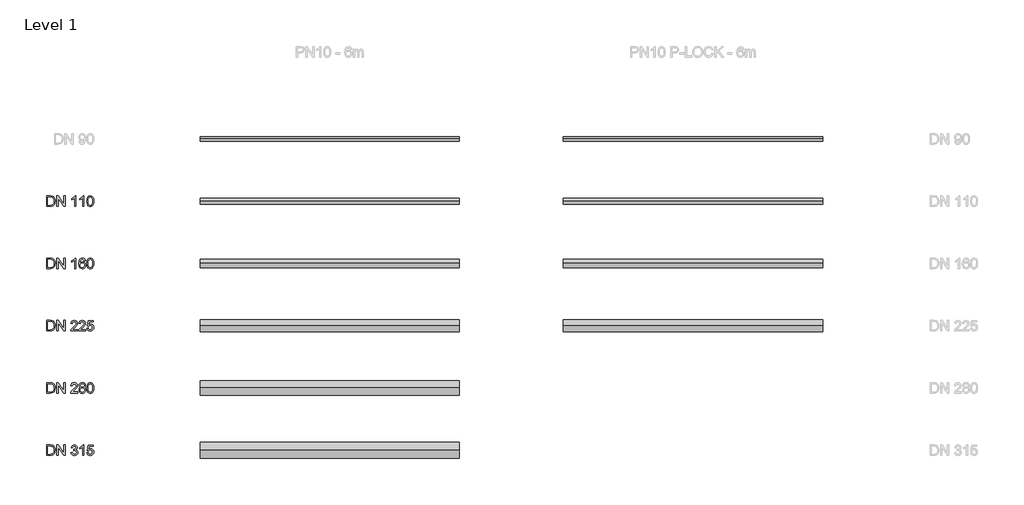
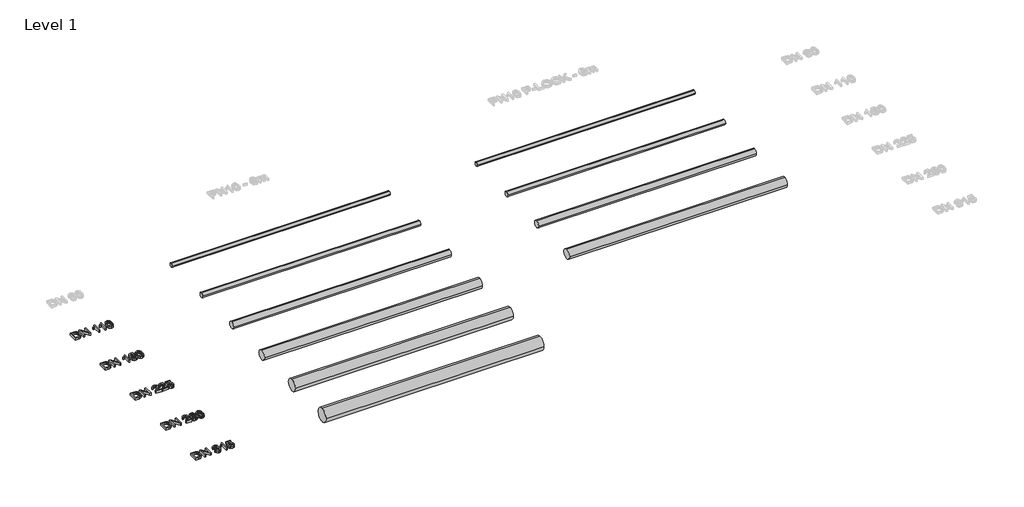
# One storey, part 1 of 3: 10 pipe segments, 5 proxies.
"""IFC4 building model written with IfcOpenShell, lengths in millimetres."""

from ifc_helpers import new_model, si_unit, point, frame, frame_2d, origin, origin_with_axes, place, context, project, spatial, polyline, circle_curve, trimmed, segment, composite_curve, outline, extrude, element, save

model = new_model("IFC4")

# Units and contexts
model_context = context("Model", 3, world=origin())
ifc_project = project(units=[si_unit("LENGTHUNIT", "METRE", prefix="MILLI")], contexts=[model_context])

# Site, building, storey
site = spatial("IfcSite", under=ifc_project)
building = spatial("IfcBuilding", under=site)
storey = spatial("IfcBuildingStorey", under=building, Name="Level 1", Elevation=0.0)

# Proxies
placement = place(None, origin())
element("IfcBuildingElementProxy", 1, Name="200mm Arial", ObjectType="200mm Arial", at=placement, inside=storey, context=model_context, shape_type="SweptSolid", body=[
    extrude(outline(polyline([(-19491.3116028, -1913.949573), (-19491.3116028, -1713.0369527), (-19422.0026349, -1713.0369527), (-19386.1464031, -1715.9309577), (-19370.1312736, -1721.5105013), (-19356.6177416, -1730.302881), (-19342.724065, -1745.606772), (-19332.8280393, -1764.6385338), (-19326.9051392, -1787.0302846), (-19324.9308391, -1812.4141423), (-19330.2773908, -1852.9547382), (-19344.0116519, -1882.2136195), (-19362.3567008, -1900.436041), (-19386.3671323, -1910.5160077), (-19418.6671715, -1913.949573), (-19491.3116028, -1913.949573)]), holes=[polyline([(-19466.1975253, -1888.8354954), (-19421.7573803, -1888.8354954), (-19389.4328156, -1885.2057264), (-19370.7934612, -1874.9540815), (-19362.0685265, -1864.0831685), (-19355.5140957, -1850.0116822), (-19351.4122114, -1832.6783089), (-19350.0449167, -1812.0217348), (-19352.7243239, -1784.6513144), (-19360.7625455, -1764.4423301), (-19372.6390025, -1750.5609162), (-19386.8331162, -1742.1732067), (-19422.4440933, -1738.1510302), (-19466.1975253, -1738.1510302), (-19466.1975253, -1888.8354954)])]), origin_with_axes(), (0.0, 0.0, 1.0), 50.0),
    extrude(outline(polyline([(-19290.3989825, -1913.949573), (-19290.3989825, -1713.0369527), (-19263.5190714, -1713.0369527), (-19158.5500754, -1872.2072292), (-19158.5500754, -1713.0369527), (-19133.4359979, -1713.0369527), (-19133.4359979, -1913.949573), (-19160.315909, -1913.949573), (-19265.284905, -1754.7302454), (-19265.284905, -1913.949573), (-19290.3989825, -1913.949573)])), origin_with_axes(), (0.0, 0.0, 1.0), 50.0),
    extrude(outline(polyline([(-18926.2448582, -1913.949573), (-18951.3589358, -1913.949573), (-18951.3589358, -1757.3789958), (-18975.1486381, -1774.3260931), (-19001.5870908, -1787.0057592), (-19001.5870908, -1763.2651077), (-18964.7743658, -1739.769711), (-18951.3037535, -1726.1948653), (-18942.431666, -1713.0369527), (-18926.2448582, -1713.0369527), (-18926.2448582, -1913.949573)])), origin_with_axes(), (0.0, 0.0, 1.0), 50.0),
    extrude(outline(polyline([(-18737.8892767, -1766.4043674), (-18763.0033542, -1769.5436271), (-18772.5192352, -1748.5988789), (-18783.9113143, -1740.7629924), (-18797.6823636, -1738.1510302), (-18820.3438945, -1744.2333458), (-18829.7800677, -1753.8411973), (-18837.4871955, -1767.066555), (-18842.6927257, -1785.7733545), (-18844.6241062, -1811.8255311), (-18834.5502709, -1800.0717013), (-18822.4776101, -1791.7882251), (-18809.0805741, -1786.8770005), (-18795.0336133, -1785.2399256), (-18771.8325221, -1789.7158232), (-18752.3593018, -1803.143516), (-18739.1523382, -1823.6590686), (-18734.750017, -1849.3985455), (-18736.8224189, -1867.3818437), (-18743.0396246, -1884.0530295), (-18752.8865994, -1898.1919608), (-18765.8483083, -1908.5784958), (-18781.3361403, -1914.9612484), (-18798.7614842, -1917.0888326), (-18827.2539447, -1911.4479754), (-18849.9461324, -1894.5254036), (-18858.6051549, -1881.4165418), (-18864.7901709, -1864.6533856), (-18869.7381838, -1820.1641897), (-18864.2444793, -1770.144501), (-18857.3773487, -1751.0667539), (-18847.7633659, -1735.9437382), (-18837.3431084, -1725.9220195), (-18825.2612505, -1718.763649), (-18796.1127338, -1713.0369527), (-18774.0766023, -1716.5808825), (-18756.4305292, -1727.2126722), (-18744.0696942, -1744.0984558), (-18737.8892767, -1766.4043674)]), holes=[polyline([(-18844.6241062, -1849.0061381), (-18838.8115707, -1870.7602267), (-18823.3605269, -1886.554627), (-18800.7235215, -1891.9747551), (-18784.1504376, -1889.1665892), (-18771.1212836, -1880.7420915), (-18762.6783918, -1867.4983397), (-18759.8640945, -1850.2324114), (-18762.6416036, -1833.6593275), (-18770.9741308, -1821.022581), (-18784.224014, -1813.0211476), (-18801.7535911, -1810.3540031), (-18818.3021495, -1813.0211476), (-18832.1406439, -1821.022581), (-18841.5032406, -1833.3527592), (-18844.6241062, -1849.0061381)])]), origin_with_axes(), (0.0, 0.0, 1.0), 50.0),
    extrude(outline(polyline([(-18712.7751992, -1815.1119436), (-18710.9296578, -1782.9529258), (-18705.3930338, -1757.3054194), (-18696.2205094, -1737.7770168), (-18683.4672669, -1723.9753106), (-18667.0413358, -1715.7715422), (-18646.8507456, -1713.0369527), (-18631.3751764, -1714.6556334), (-18617.5182879, -1719.5116758), (-18605.930005, -1727.4150073), (-18597.2602527, -1738.1755557), (-18585.4880288, -1767.9004209), (-18580.9262921, -1815.1119436), (-18582.7534393, -1847.0870203), (-18588.2348811, -1872.6732131), (-18597.3522232, -1892.2200098), (-18610.0870716, -1906.0768983), (-18626.5497909, -1914.335849), (-18646.8507456, -1917.0888326), (-18672.9458418, -1912.3063667), (-18692.7624186, -1897.9589689), (-18701.5180101, -1882.8298218), (-18707.772004, -1863.9789353), (-18712.7751992, -1815.1119436)]), holes=[polyline([(-18687.6611216, -1815.0628927), (-18684.7180657, -1854.5672876), (-18675.8888978, -1877.4311536), (-18662.7432478, -1888.3388547), (-18646.8507456, -1891.9747551), (-18630.9582434, -1888.326592), (-18617.8125935, -1877.3821026), (-18608.9834256, -1854.5059739), (-18606.0403696, -1815.0628927), (-18608.8853237, -1776.4475459), (-18617.420186, -1753.4058703), (-18630.5413105, -1741.9647402), (-18647.1450512, -1738.1510302), (-18662.8658751, -1741.5110191), (-18675.4964903, -1751.5909857), (-18684.6199638, -1776.0674012), (-18687.6611216, -1815.0628927)])]), origin_with_axes(), (0.0, 0.0, 1.0), 50.0),
])
element("IfcBuildingElementProxy", 2, Name="200mm Arial", ObjectType="200mm Arial", at=placement, inside=storey, context=model_context, shape_type="SweptSolid", body=[
    extrude(outline(polyline([(-19491.3116028, -3113.949573), (-19491.3116028, -2913.0369527), (-19422.0026349, -2913.0369527), (-19386.1464031, -2915.9309577), (-19370.1312736, -2921.5105013), (-19356.6177416, -2930.302881), (-19342.724065, -2945.606772), (-19332.8280393, -2964.6385338), (-19326.9051392, -2987.0302846), (-19324.9308391, -3012.4141423), (-19330.2773908, -3052.9547382), (-19344.0116519, -3082.2136195), (-19362.3567008, -3100.436041), (-19386.3671323, -3110.5160077), (-19418.6671715, -3113.949573), (-19491.3116028, -3113.949573)]), holes=[polyline([(-19466.1975253, -3088.8354954), (-19421.7573803, -3088.8354954), (-19389.4328156, -3085.2057264), (-19370.7934612, -3074.9540815), (-19362.0685265, -3064.0831685), (-19355.5140957, -3050.0116822), (-19351.4122114, -3032.6783089), (-19350.0449167, -3012.0217348), (-19352.7243239, -2984.6513144), (-19360.7625455, -2964.4423301), (-19372.6390025, -2950.5609162), (-19386.8331162, -2942.1732067), (-19422.4440933, -2938.1510302), (-19466.1975253, -2938.1510302), (-19466.1975253, -3088.8354954)])]), origin_with_axes(), (0.0, 0.0, 1.0), 50.0),
    extrude(outline(polyline([(-19290.3989825, -3113.949573), (-19290.3989825, -2913.0369527), (-19263.5190714, -2913.0369527), (-19158.5500754, -3072.2072292), (-19158.5500754, -2913.0369527), (-19133.4359979, -2913.0369527), (-19133.4359979, -3113.949573), (-19160.315909, -3113.949573), (-19265.284905, -2954.7302454), (-19265.284905, -3113.949573), (-19290.3989825, -3113.949573)])), origin_with_axes(), (0.0, 0.0, 1.0), 50.0),
    extrude(outline(polyline([(-18891.7130016, -3088.8354954), (-18891.7130016, -3113.949573), (-19023.5619087, -3113.949573), (-19020.8641074, -3096.6345937), (-19005.6092673, -3069.9754118), (-18974.1676195, -3040.8636832), (-18930.806595, -2999.0232377), (-18922.6764029, -2984.6022634), (-18919.9663388, -2970.5736967), (-18922.5231187, -2957.9982638), (-18930.1934583, -2947.5442838), (-18941.9840762, -2940.4993436), (-18956.9016912, -2938.1510302), (-18972.5673328, -2940.4441613), (-18984.7380955, -2947.3235546), (-18992.5923761, -2958.2496499), (-18995.3085714, -2972.6828868), (-19020.422649, -2969.5436271), (-19014.334202, -2945.2511527), (-19001.1701579, -2927.5069778), (-18981.6172299, -2916.6544589), (-18956.3621309, -2913.0369527), (-18930.9230909, -2917.0591291), (-18911.4069511, -2929.1256586), (-18898.9909337, -2947.1518763), (-18894.8522613, -2969.0531178), (-18899.3158962, -2992.8673456), (-18914.1538033, -3017.4909138), (-18950.1326624, -3051.9001431), (-18979.0236618, -3076.0577275), (-18990.3544272, -3088.8354954), (-18891.7130016, -3088.8354954)])), origin_with_axes(), (0.0, 0.0, 1.0), 50.0),
    extrude(outline(polyline([(-18737.8892767, -3088.8354954), (-18737.8892767, -3113.949573), (-18869.7381838, -3113.949573), (-18867.0403825, -3096.6345937), (-18851.7855424, -3069.9754118), (-18820.3438945, -3040.8636832), (-18776.98287, -2999.0232377), (-18768.852678, -2984.6022634), (-18766.1426139, -2970.5736967), (-18768.6993938, -2957.9982638), (-18776.3697334, -2947.5442838), (-18788.1603513, -2940.4993436), (-18803.0779662, -2938.1510302), (-18818.7436079, -2940.4441613), (-18830.9143705, -2947.3235546), (-18838.7686511, -2958.2496499), (-18841.4848465, -2972.6828868), (-18866.5989241, -2969.5436271), (-18860.510477, -2945.2511527), (-18847.346433, -2927.5069778), (-18827.7935049, -2916.6544589), (-18802.538406, -2913.0369527), (-18777.099366, -2917.0591291), (-18757.5832262, -2929.1256586), (-18745.1672088, -2947.1518763), (-18741.0285364, -2969.0531178), (-18745.4921713, -2992.8673456), (-18760.3300784, -3017.4909138), (-18796.3089375, -3051.9001431), (-18825.1999369, -3076.0577275), (-18836.5307023, -3088.8354954), (-18737.8892767, -3088.8354954)])), origin_with_axes(), (0.0, 0.0, 1.0), 50.0),
    extrude(outline(polyline([(-18712.7751992, -3060.5821582), (-18687.6611216, -3057.4428985), (-18683.0503339, -3072.5199289), (-18675.005981, -3083.3172655), (-18663.5648509, -3089.8103827), (-18648.763732, -3091.9747551), (-18630.7620397, -3088.9642541), (-18617.2730332, -3079.9327511), (-18608.8485355, -3065.9225785), (-18606.0403696, -3047.9760685), (-18608.6707259, -3031.0780222), (-18616.5617947, -3018.1531014), (-18629.7748897, -3009.9493329), (-18648.3713245, -3007.2147434), (-18670.4197188, -3011.5802764), (-18684.5218619, -3022.9110419), (-18709.6359395, -3019.7717822), (-18687.6611216, -2916.1762123), (-18590.3440712, -2916.1762123), (-18590.3440712, -2941.2902899), (-18667.3540355, -2941.2902899), (-18678.0961897, -2996.619742), (-18660.1558111, -2985.7304349), (-18641.3570412, -2982.1006659), (-18617.8923012, -2986.601089), (-18598.4129496, -3000.1023582), (-18585.2979565, -3020.6792244), (-18580.9262921, -3046.4064386), (-18584.8626294, -3071.5205162), (-18596.6716415, -3093.0048247), (-18607.1072274, -3103.5415782), (-18619.2841214, -3111.0678307), (-18633.2023236, -3115.5835821), (-18648.8618339, -3117.0888326), (-18673.5283216, -3113.2199403), (-18693.1793515, -3101.6132634), (-18706.6499639, -3083.6177025), (-18712.7751992, -3060.5821582)])), origin_with_axes(), (0.0, 0.0, 1.0), 50.0),
])
element("IfcBuildingElementProxy", 3, Name="200mm Arial", ObjectType="200mm Arial", at=placement, inside=storey, context=model_context, shape_type="SweptSolid", body=[
    extrude(outline(polyline([(-19491.3116028, -4313.949573), (-19491.3116028, -4113.0369527), (-19422.0026349, -4113.0369527), (-19386.1464031, -4115.9309577), (-19370.1312736, -4121.5105013), (-19356.6177416, -4130.302881), (-19342.724065, -4145.606772), (-19332.8280393, -4164.6385338), (-19326.9051392, -4187.0302846), (-19324.9308391, -4212.4141423), (-19330.2773908, -4252.9547382), (-19344.0116519, -4282.2136195), (-19362.3567008, -4300.436041), (-19386.3671323, -4310.5160077), (-19418.6671715, -4313.949573), (-19491.3116028, -4313.949573)]), holes=[polyline([(-19466.1975253, -4288.8354954), (-19421.7573803, -4288.8354954), (-19389.4328156, -4285.2057264), (-19370.7934612, -4274.9540815), (-19362.0685265, -4264.0831685), (-19355.5140957, -4250.0116822), (-19351.4122114, -4232.6783089), (-19350.0449167, -4212.0217348), (-19352.7243239, -4184.6513144), (-19360.7625455, -4164.4423301), (-19372.6390025, -4150.5609162), (-19386.8331162, -4142.1732067), (-19422.4440933, -4138.1510302), (-19466.1975253, -4138.1510302), (-19466.1975253, -4288.8354954)])]), origin_with_axes(), (0.0, 0.0, 1.0), 50.0),
    extrude(outline(polyline([(-19290.3989825, -4313.949573), (-19290.3989825, -4113.0369527), (-19263.5190714, -4113.0369527), (-19158.5500754, -4272.2072292), (-19158.5500754, -4113.0369527), (-19133.4359979, -4113.0369527), (-19133.4359979, -4313.949573), (-19160.315909, -4313.949573), (-19265.284905, -4154.7302454), (-19265.284905, -4313.949573), (-19290.3989825, -4313.949573)])), origin_with_axes(), (0.0, 0.0, 1.0), 50.0),
    extrude(outline(polyline([(-18891.7130016, -4288.8354954), (-18891.7130016, -4313.949573), (-19023.5619087, -4313.949573), (-19020.8641074, -4296.6345937), (-19005.6092673, -4269.9754118), (-18974.1676195, -4240.8636832), (-18930.806595, -4199.0232377), (-18922.6764029, -4184.6022634), (-18919.9663388, -4170.5736967), (-18922.5231187, -4157.9982638), (-18930.1934583, -4147.5442838), (-18941.9840762, -4140.4993436), (-18956.9016912, -4138.1510302), (-18972.5673328, -4140.4441613), (-18984.7380955, -4147.3235546), (-18992.5923761, -4158.2496499), (-18995.3085714, -4172.6828868), (-19020.422649, -4169.5436271), (-19014.334202, -4145.2511527), (-19001.1701579, -4127.5069778), (-18981.6172299, -4116.6544589), (-18956.3621309, -4113.0369527), (-18930.9230909, -4117.0591291), (-18911.4069511, -4129.1256586), (-18898.9909337, -4147.1518763), (-18894.8522613, -4169.0531178), (-18899.3158962, -4192.8673456), (-18914.1538033, -4217.4909138), (-18950.1326624, -4251.9001431), (-18979.0236618, -4276.0577275), (-18990.3544272, -4288.8354954), (-18891.7130016, -4288.8354954)])), origin_with_axes(), (0.0, 0.0, 1.0), 50.0),
    extrude(outline(polyline([(-18830.0069283, -4203.2906688), (-18843.4530152, -4196.6687929), (-18852.8891884, -4187.6924722), (-18858.4626006, -4176.5456478), (-18860.3204047, -4163.4122605), (-18856.2737027, -4143.7796247), (-18844.1335969, -4127.5560287), (-18825.2612505, -4116.6667217), (-18801.0178271, -4113.0369527), (-18776.6272508, -4116.7525608), (-18757.5096498, -4127.8993853), (-18745.1488147, -4144.3804986), (-18741.0285364, -4164.0989736), (-18742.861815, -4176.8092965), (-18748.3616508, -4187.7660486), (-18757.5893575, -4196.687187), (-18770.6062488, -4203.2906688), (-18755.1490736, -4211.255314), (-18743.8980159, -4222.9846183), (-18737.0370167, -4237.9144959), (-18734.750017, -4255.4808612), (-18739.2872283, -4279.4912927), (-18752.8988621, -4299.332395), (-18773.9171868, -4312.6497232), (-18800.6744705, -4317.0888326), (-18827.4317543, -4312.6313291), (-18848.450079, -4299.2588186), (-18862.0617128, -4279.227644), (-18866.5989241, -4254.7941481), (-18864.2199538, -4236.5472012), (-18857.0830431, -4221.5376158), (-18845.5560739, -4210.2804267), (-18830.0069283, -4203.2906688)]), holes=[polyline([(-18841.4848465, -4253.9112313), (-18837.2909918, -4272.8203659), (-18831.4845876, -4280.9321639), (-18822.4530846, -4286.97156), (-18800.4782668, -4291.9747551), (-18783.3840168, -4289.3443988), (-18770.5571979, -4281.45333), (-18762.5373704, -4269.5032966), (-18759.8640945, -4254.6960463), (-18762.6232095, -4239.6374099), (-18770.9005544, -4227.4237277), (-18784.0216789, -4219.3303238), (-18801.3121327, -4216.6325225), (-18818.1672594, -4219.2935356), (-18830.8653196, -4227.2765749), (-18838.8299648, -4239.2572652), (-18841.4848465, -4253.9112313)]), polyline([(-18835.2063271, -4164.1480245), (-18832.9806411, -4175.110908), (-18826.3035829, -4183.8664995), (-18815.3713562, -4189.6054586), (-18800.3801649, -4191.518445), (-18785.7384615, -4189.6177213), (-18774.9717818, -4183.9155504), (-18768.3499059, -4175.4542645), (-18766.1426139, -4165.276196), (-18768.4234823, -4154.7118513), (-18775.2660874, -4145.974654), (-18786.1799199, -4140.1069361), (-18800.6744705, -4138.1510302), (-18815.2609916, -4140.0640166), (-18826.1564301, -4145.8029757), (-18832.9438529, -4154.2152106), (-18835.2063271, -4164.1480245)])]), origin_with_axes(), (0.0, 0.0, 1.0), 50.0),
    extrude(outline(polyline([(-18712.7751992, -4215.1119436), (-18710.9296578, -4182.9529258), (-18705.3930338, -4157.3054194), (-18696.2205094, -4137.7770168), (-18683.4672669, -4123.9753106), (-18667.0413358, -4115.7715422), (-18646.8507456, -4113.0369527), (-18631.3751764, -4114.6556334), (-18617.5182879, -4119.5116758), (-18605.930005, -4127.4150073), (-18597.2602527, -4138.1755557), (-18585.4880288, -4167.9004209), (-18580.9262921, -4215.1119436), (-18582.7534393, -4247.0870203), (-18588.2348811, -4272.6732131), (-18597.3522232, -4292.2200098), (-18610.0870716, -4306.0768983), (-18626.5497909, -4314.335849), (-18646.8507456, -4317.0888326), (-18672.9458418, -4312.3063667), (-18692.7624186, -4297.9589689), (-18701.5180101, -4282.8298218), (-18707.772004, -4263.9789353), (-18712.7751992, -4215.1119436)]), holes=[polyline([(-18687.6611216, -4215.0628927), (-18684.7180657, -4254.5672876), (-18675.8888978, -4277.4311536), (-18662.7432478, -4288.3388547), (-18646.8507456, -4291.9747551), (-18630.9582434, -4288.326592), (-18617.8125935, -4277.3821026), (-18608.9834256, -4254.5059739), (-18606.0403696, -4215.0628927), (-18608.8853237, -4176.4475459), (-18617.420186, -4153.4058703), (-18630.5413105, -4141.9647402), (-18647.1450512, -4138.1510302), (-18662.8658751, -4141.5110191), (-18675.4964903, -4151.5909857), (-18684.6199638, -4176.0674012), (-18687.6611216, -4215.0628927)])]), origin_with_axes(), (0.0, 0.0, 1.0), 50.0),
])
element("IfcBuildingElementProxy", 4, Name="200mm Arial", ObjectType="200mm Arial", at=placement, inside=storey, context=model_context, shape_type="SweptSolid", body=[
    extrude(outline(polyline([(-19491.3116028, -5513.949573), (-19491.3116028, -5313.0369527), (-19422.0026349, -5313.0369527), (-19386.1464031, -5315.9309577), (-19370.1312736, -5321.5105013), (-19356.6177416, -5330.302881), (-19342.724065, -5345.606772), (-19332.8280393, -5364.6385338), (-19326.9051392, -5387.0302846), (-19324.9308391, -5412.4141423), (-19330.2773908, -5452.9547382), (-19344.0116519, -5482.2136195), (-19362.3567008, -5500.436041), (-19386.3671323, -5510.5160077), (-19418.6671715, -5513.949573), (-19491.3116028, -5513.949573)]), holes=[polyline([(-19466.1975253, -5488.8354954), (-19421.7573803, -5488.8354954), (-19389.4328156, -5485.2057264), (-19370.7934612, -5474.9540815), (-19362.0685265, -5464.0831685), (-19355.5140957, -5450.0116822), (-19351.4122114, -5432.6783089), (-19350.0449167, -5412.0217348), (-19352.7243239, -5384.6513144), (-19360.7625455, -5364.4423301), (-19372.6390025, -5350.5609162), (-19386.8331162, -5342.1732067), (-19422.4440933, -5338.1510302), (-19466.1975253, -5338.1510302), (-19466.1975253, -5488.8354954)])]), origin_with_axes(), (0.0, 0.0, 1.0), 50.0),
    extrude(outline(polyline([(-19290.3989825, -5513.949573), (-19290.3989825, -5313.0369527), (-19263.5190714, -5313.0369527), (-19158.5500754, -5472.2072292), (-19158.5500754, -5313.0369527), (-19133.4359979, -5313.0369527), (-19133.4359979, -5513.949573), (-19160.315909, -5513.949573), (-19265.284905, -5354.7302454), (-19265.284905, -5513.949573), (-19290.3989825, -5513.949573)])), origin_with_axes(), (0.0, 0.0, 1.0), 50.0),
    extrude(outline(polyline([(-19020.422649, -5460.5821582), (-18995.3085714, -5457.4428985), (-18989.6861083, -5473.2250361), (-18981.451683, -5483.8813512), (-18970.2006253, -5489.9514041), (-18955.528265, -5491.9747551), (-18938.3113877, -5489.1911147), (-18925.0185849, -5480.8401934), (-18916.5205108, -5468.3812565), (-18913.6878195, -5453.2735692), (-18916.4959853, -5438.9323028), (-18924.920483, -5427.3011004), (-18937.6737255, -5419.5939726), (-18953.4681259, -5417.02493), (-18971.0774107, -5419.7717822), (-18968.2815075, -5394.6577047), (-18964.2593311, -5394.9520102), (-18949.2129575, -5393.1493885), (-18935.7607392, -5387.7415231), (-18926.2693837, -5378.5935242), (-18923.1055985, -5365.5705016), (-18925.3987296, -5354.7241141), (-18932.2781229, -5345.925603), (-18942.7750225, -5340.0946734), (-18955.9206725, -5338.1510302), (-18969.0908479, -5340.1130675), (-18979.8575277, -5345.9991794), (-18987.7179396, -5355.809366), (-18992.1693118, -5369.5436271), (-19017.2833893, -5366.4043674), (-19009.8889612, -5343.8532011), (-18996.7310485, -5327.0164685), (-18978.7293562, -5316.5318316), (-18956.8035893, -5313.0369527), (-18941.0153203, -5314.7598667), (-18926.5146384, -5319.9286087), (-18914.2886934, -5328.0833263), (-18905.3246354, -5338.7641669), (-18899.8247996, -5351.0698196), (-18897.991521, -5364.0989736), (-18899.7328291, -5376.2390794), (-18904.9567534, -5387.2510138), (-18913.5897176, -5396.6320047), (-18925.5581452, -5403.87928), (-18909.8373212, -5410.2313758), (-18898.1877247, -5421.0471064), (-18890.9772376, -5435.7378608), (-18888.5737419, -5453.7150276), (-18893.3807333, -5478.191443), (-18907.8017075, -5498.645682), (-18929.5680589, -5512.478045), (-18956.4111818, -5517.0888326), (-18980.6913935, -5513.1524953), (-19000.4589194, -5501.3434833), (-19014.2054433, -5483.2804773), (-19020.422649, -5460.5821582)])), origin_with_axes(), (0.0, 0.0, 1.0), 50.0),
    extrude(outline(polyline([(-18772.4211333, -5513.949573), (-18797.5352108, -5513.949573), (-18797.5352108, -5357.3789958), (-18821.3249132, -5374.3260931), (-18847.7633659, -5387.0057592), (-18847.7633659, -5363.2651077), (-18810.9506409, -5339.769711), (-18797.4800285, -5326.1948653), (-18788.6079411, -5313.0369527), (-18772.4211333, -5313.0369527), (-18772.4211333, -5513.949573)])), origin_with_axes(), (0.0, 0.0, 1.0), 50.0),
    extrude(outline(polyline([(-18712.7751992, -5460.5821582), (-18687.6611216, -5457.4428985), (-18683.0503339, -5472.5199289), (-18675.005981, -5483.3172655), (-18663.5648509, -5489.8103827), (-18648.763732, -5491.9747551), (-18630.7620397, -5488.9642541), (-18617.2730332, -5479.9327511), (-18608.8485355, -5465.9225785), (-18606.0403696, -5447.9760685), (-18608.6707259, -5431.0780222), (-18616.5617947, -5418.1531014), (-18629.7748897, -5409.9493329), (-18648.3713245, -5407.2147434), (-18670.4197188, -5411.5802764), (-18684.5218619, -5422.9110419), (-18709.6359395, -5419.7717822), (-18687.6611216, -5316.1762123), (-18590.3440712, -5316.1762123), (-18590.3440712, -5341.2902899), (-18667.3540355, -5341.2902899), (-18678.0961897, -5396.619742), (-18660.1558111, -5385.7304349), (-18641.3570412, -5382.1006659), (-18617.8923012, -5386.601089), (-18598.4129496, -5400.1023582), (-18585.2979565, -5420.6792244), (-18580.9262921, -5446.4064386), (-18584.8626294, -5471.5205162), (-18596.6716415, -5493.0048247), (-18607.1072274, -5503.5415782), (-18619.2841214, -5511.0678307), (-18633.2023236, -5515.5835821), (-18648.8618339, -5517.0888326), (-18673.5283216, -5513.2199403), (-18693.1793515, -5501.6132634), (-18706.6499639, -5483.6177025), (-18712.7751992, -5460.5821582)])), origin_with_axes(), (0.0, 0.0, 1.0), 50.0),
])
element("IfcBuildingElementProxy", 5, Name="200mm Arial", ObjectType="200mm Arial", at=placement, inside=storey, context=model_context, shape_type="SweptSolid", body=[
    extrude(outline(polyline([(-19491.3116028, -713.949573), (-19491.3116028, -513.0369527), (-19422.0026349, -513.0369527), (-19386.1464031, -515.9309577), (-19370.1312736, -521.5105013), (-19356.6177416, -530.302881), (-19342.724065, -545.606772), (-19332.8280393, -564.6385338), (-19326.9051392, -587.0302846), (-19324.9308391, -612.4141423), (-19330.2773908, -652.9547382), (-19344.0116519, -682.2136195), (-19362.3567008, -700.436041), (-19386.3671323, -710.5160077), (-19418.6671715, -713.949573), (-19491.3116028, -713.949573)]), holes=[polyline([(-19466.1975253, -688.8354954), (-19421.7573803, -688.8354954), (-19389.4328156, -685.2057264), (-19370.7934612, -674.9540815), (-19362.0685265, -664.0831685), (-19355.5140957, -650.0116822), (-19351.4122114, -632.6783089), (-19350.0449167, -612.0217348), (-19352.7243239, -584.6513144), (-19360.7625455, -564.4423301), (-19372.6390025, -550.5609162), (-19386.8331162, -542.1732067), (-19422.4440933, -538.1510302), (-19466.1975253, -538.1510302), (-19466.1975253, -688.8354954)])]), origin_with_axes(), (0.0, 0.0, 1.0), 50.0),
    extrude(outline(polyline([(-19290.3989825, -713.949573), (-19290.3989825, -513.0369527), (-19263.5190714, -513.0369527), (-19158.5500754, -672.2072292), (-19158.5500754, -513.0369527), (-19133.4359979, -513.0369527), (-19133.4359979, -713.949573), (-19160.315909, -713.949573), (-19265.284905, -554.7302454), (-19265.284905, -713.949573), (-19290.3989825, -713.949573)])), origin_with_axes(), (0.0, 0.0, 1.0), 50.0),
    extrude(outline(polyline([(-18926.2448582, -713.949573), (-18951.3589358, -713.949573), (-18951.3589358, -557.3789958), (-18975.1486381, -574.3260931), (-19001.5870908, -587.0057592), (-19001.5870908, -563.2651077), (-18964.7743658, -539.769711), (-18951.3037535, -526.1948653), (-18942.431666, -513.0369527), (-18926.2448582, -513.0369527), (-18926.2448582, -713.949573)])), origin_with_axes(), (0.0, 0.0, 1.0), 50.0),
    extrude(outline(polyline([(-18772.4211333, -713.949573), (-18797.5352108, -713.949573), (-18797.5352108, -557.3789958), (-18821.3249132, -574.3260931), (-18847.7633659, -587.0057592), (-18847.7633659, -563.2651077), (-18810.9506409, -539.769711), (-18797.4800285, -526.1948653), (-18788.6079411, -513.0369527), (-18772.4211333, -513.0369527), (-18772.4211333, -713.949573)])), origin_with_axes(), (0.0, 0.0, 1.0), 50.0),
    extrude(outline(polyline([(-18712.7751992, -615.1119436), (-18710.9296578, -582.9529258), (-18705.3930338, -557.3054194), (-18696.2205094, -537.7770168), (-18683.4672669, -523.9753106), (-18667.0413358, -515.7715422), (-18646.8507456, -513.0369527), (-18631.3751764, -514.6556334), (-18617.5182879, -519.5116758), (-18605.930005, -527.4150073), (-18597.2602527, -538.1755557), (-18585.4880288, -567.9004209), (-18580.9262921, -615.1119436), (-18582.7534393, -647.0870203), (-18588.2348811, -672.6732131), (-18597.3522232, -692.2200098), (-18610.0870716, -706.0768983), (-18626.5497909, -714.335849), (-18646.8507456, -717.0888326), (-18672.9458418, -712.3063667), (-18692.7624186, -697.9589689), (-18701.5180101, -682.8298218), (-18707.772004, -663.9789353), (-18712.7751992, -615.1119436)]), holes=[polyline([(-18687.6611216, -615.0628927), (-18684.7180657, -654.5672876), (-18675.8888978, -677.4311536), (-18662.7432478, -688.3388547), (-18646.8507456, -691.9747551), (-18630.9582434, -688.326592), (-18617.8125935, -677.3821026), (-18608.9834256, -654.5059739), (-18606.0403696, -615.0628927), (-18608.8853237, -576.4475459), (-18617.420186, -553.4058703), (-18630.5413105, -541.9647402), (-18647.1450512, -538.1510302), (-18662.8658751, -541.5110191), (-18675.4964903, -551.5909857), (-18684.6199638, -576.0674012), (-18687.6611216, -615.0628927)])]), origin_with_axes(), (0.0, 0.0, 1.0), 50.0),
])

# Pipe segments
element("IfcPipeSegment", 6, ObjectType="Pipelife PVC - 6m", at=placement, inside=storey, context=model_context, shape_type="SweptSolid", body=[
    extrude(outline(composite_curve([segment(trimmed(circle_curve(frame_2d((586.050427, 0.0)), 45.0), [point((541.050427, 0.0))], [point((586.050427, 45.0))], False, "CARTESIAN"), True, "CONTINUOUS"), segment(trimmed(circle_curve(frame_2d((586.050427, 0.0)), 45.0), [point((586.050427, 45.0))], [point((631.050427, 0.0))], False, "CARTESIAN"), True, "CONTINUOUS"), segment(trimmed(circle_curve(frame_2d((586.050427, 0.0)), 45.0), [point((631.050427, 0.0))], [point((586.050427, -45.0))], False, "CARTESIAN"), True, "CONTINUOUS"), segment(trimmed(circle_curve(frame_2d((586.050427, 0.0)), 45.0), [point((586.050427, -45.0))], [point((541.050427, 0.0))], False, "CARTESIAN"), True, "CONTINUOUS")], self_intersect=False)), frame((-16532.6671252, 0.0, 0.0), z_axis=(1.0, 0.0, 0.0), x_axis=(0.0, 1.0, 0.0)), (0.0, 0.0, 1.0), 5000.0),
])
element("IfcPipeSegment", 7, ObjectType="Pipelife PVC - 6m", at=placement, inside=storey, context=model_context, shape_type="SweptSolid", body=[
    extrude(outline(composite_curve([segment(trimmed(circle_curve(frame_2d((-613.949573, 0.0)), 55.0), [point((-668.949573, 0.0))], [point((-613.949573, 55.0))], False, "CARTESIAN"), True, "CONTINUOUS"), segment(trimmed(circle_curve(frame_2d((-613.949573, 0.0)), 55.0), [point((-613.949573, 55.0))], [point((-558.949573, 0.0))], False, "CARTESIAN"), True, "CONTINUOUS"), segment(trimmed(circle_curve(frame_2d((-613.949573, 0.0)), 55.0), [point((-558.949573, 0.0))], [point((-613.949573, -55.0))], False, "CARTESIAN"), True, "CONTINUOUS"), segment(trimmed(circle_curve(frame_2d((-613.949573, 0.0)), 55.0), [point((-613.949573, -55.0))], [point((-668.949573, 0.0))], False, "CARTESIAN"), True, "CONTINUOUS")], self_intersect=False)), frame((-16532.6671252, 0.0, 0.0), z_axis=(1.0, 0.0, 0.0), x_axis=(0.0, 1.0, 0.0)), (0.0, 0.0, 1.0), 5000.0),
])
element("IfcPipeSegment", 8, ObjectType="Pipelife PVC - 6m", at=placement, inside=storey, context=model_context, shape_type="SweptSolid", body=[
    extrude(outline(composite_curve([segment(trimmed(circle_curve(frame_2d((-1813.949573, 0.0)), 80.0), [point((-1893.949573, 0.0))], [point((-1813.949573, 80.0))], False, "CARTESIAN"), True, "CONTINUOUS"), segment(trimmed(circle_curve(frame_2d((-1813.949573, 0.0)), 80.0), [point((-1813.949573, 80.0))], [point((-1733.949573, 0.0))], False, "CARTESIAN"), True, "CONTINUOUS"), segment(trimmed(circle_curve(frame_2d((-1813.949573, 0.0)), 80.0), [point((-1733.949573, 0.0))], [point((-1813.949573, -80.0))], False, "CARTESIAN"), True, "CONTINUOUS"), segment(trimmed(circle_curve(frame_2d((-1813.949573, 0.0)), 80.0), [point((-1813.949573, -80.0))], [point((-1893.949573, 0.0))], False, "CARTESIAN"), True, "CONTINUOUS")], self_intersect=False)), frame((-16532.6671252, 0.0, 0.0), z_axis=(1.0, 0.0, 0.0), x_axis=(0.0, 1.0, 0.0)), (0.0, 0.0, 1.0), 5000.0),
])
element("IfcPipeSegment", 9, ObjectType="Pipelife PVC - 6m", at=placement, inside=storey, context=model_context, shape_type="SweptSolid", body=[
    extrude(outline(composite_curve([segment(trimmed(circle_curve(frame_2d((-3013.949573, 0.0)), 112.5), [point((-3126.449573, 0.0))], [point((-3013.949573, 112.5))], False, "CARTESIAN"), True, "CONTINUOUS"), segment(trimmed(circle_curve(frame_2d((-3013.949573, 0.0)), 112.5), [point((-3013.949573, 112.5))], [point((-2901.449573, 0.0))], False, "CARTESIAN"), True, "CONTINUOUS"), segment(trimmed(circle_curve(frame_2d((-3013.949573, 0.0)), 112.5), [point((-2901.449573, 0.0))], [point((-3013.949573, -112.5))], False, "CARTESIAN"), True, "CONTINUOUS"), segment(trimmed(circle_curve(frame_2d((-3013.949573, 0.0)), 112.5), [point((-3013.949573, -112.5))], [point((-3126.449573, 0.0))], False, "CARTESIAN"), True, "CONTINUOUS")], self_intersect=False)), frame((-16532.6671252, 0.0, 0.0), z_axis=(1.0, 0.0, 0.0), x_axis=(0.0, 1.0, 0.0)), (0.0, 0.0, 1.0), 5000.0),
])
element("IfcPipeSegment", 10, ObjectType="Pipelife PVC - 6m", at=placement, inside=storey, context=model_context, shape_type="SweptSolid", body=[
    extrude(outline(composite_curve([segment(trimmed(circle_curve(frame_2d((-4213.949573, 0.0)), 140.0), [point((-4353.949573, 0.0))], [point((-4213.949573, 140.0))], False, "CARTESIAN"), True, "CONTINUOUS"), segment(trimmed(circle_curve(frame_2d((-4213.949573, 0.0)), 140.0), [point((-4213.949573, 140.0))], [point((-4073.949573, 0.0))], False, "CARTESIAN"), True, "CONTINUOUS"), segment(trimmed(circle_curve(frame_2d((-4213.949573, 0.0)), 140.0), [point((-4073.949573, 0.0))], [point((-4213.949573, -140.0))], False, "CARTESIAN"), True, "CONTINUOUS"), segment(trimmed(circle_curve(frame_2d((-4213.949573, 0.0)), 140.0), [point((-4213.949573, -140.0))], [point((-4353.949573, 0.0))], False, "CARTESIAN"), True, "CONTINUOUS")], self_intersect=False)), frame((-16532.6671252, 0.0, 0.0), z_axis=(1.0, 0.0, 0.0), x_axis=(0.0, 1.0, 0.0)), (0.0, 0.0, 1.0), 5000.0),
])
element("IfcPipeSegment", 11, ObjectType="Pipelife PVC - 6m", at=placement, inside=storey, context=model_context, shape_type="SweptSolid", body=[
    extrude(outline(composite_curve([segment(trimmed(circle_curve(frame_2d((-5413.949573, 0.0)), 157.5), [point((-5571.449573, 0.0))], [point((-5413.949573, 157.5))], False, "CARTESIAN"), True, "CONTINUOUS"), segment(trimmed(circle_curve(frame_2d((-5413.949573, 0.0)), 157.5), [point((-5413.949573, 157.5))], [point((-5256.449573, 0.0))], False, "CARTESIAN"), True, "CONTINUOUS"), segment(trimmed(circle_curve(frame_2d((-5413.949573, 0.0)), 157.5), [point((-5256.449573, 0.0))], [point((-5413.949573, -157.5))], False, "CARTESIAN"), True, "CONTINUOUS"), segment(trimmed(circle_curve(frame_2d((-5413.949573, 0.0)), 157.5), [point((-5413.949573, -157.5))], [point((-5571.449573, 0.0))], False, "CARTESIAN"), True, "CONTINUOUS")], self_intersect=False)), frame((-16532.6671252, 0.0, 0.0), z_axis=(1.0, 0.0, 0.0), x_axis=(0.0, 1.0, 0.0)), (0.0, 0.0, 1.0), 5000.0),
])
element("IfcPipeSegment", 12, ObjectType="Pipelife PVC P-LOCK - 6m", at=placement, inside=storey, context=model_context, shape_type="SweptSolid", body=[
    extrude(outline(composite_curve([segment(trimmed(circle_curve(frame_2d((586.050427, 0.0)), 45.0), [point((541.050427, 0.0))], [point((586.050427, 45.0))], False, "CARTESIAN"), True, "CONTINUOUS"), segment(trimmed(circle_curve(frame_2d((586.050427, 0.0)), 45.0), [point((586.050427, 45.0))], [point((631.050427, 0.0))], False, "CARTESIAN"), True, "CONTINUOUS"), segment(trimmed(circle_curve(frame_2d((586.050427, 0.0)), 45.0), [point((631.050427, 0.0))], [point((586.050427, -45.0))], False, "CARTESIAN"), True, "CONTINUOUS"), segment(trimmed(circle_curve(frame_2d((586.050427, 0.0)), 45.0), [point((586.050427, -45.0))], [point((541.050427, 0.0))], False, "CARTESIAN"), True, "CONTINUOUS")], self_intersect=False)), frame((-9532.6671252, 0.0, 0.0), z_axis=(1.0, 0.0, 0.0), x_axis=(0.0, 1.0, 0.0)), (0.0, 0.0, 1.0), 5000.0),
])
element("IfcPipeSegment", 13, ObjectType="Pipelife PVC P-LOCK - 6m", at=placement, inside=storey, context=model_context, shape_type="SweptSolid", body=[
    extrude(outline(composite_curve([segment(trimmed(circle_curve(frame_2d((-613.949573, 0.0)), 55.0), [point((-668.949573, 0.0))], [point((-613.949573, 55.0))], False, "CARTESIAN"), True, "CONTINUOUS"), segment(trimmed(circle_curve(frame_2d((-613.949573, 0.0)), 55.0), [point((-613.949573, 55.0))], [point((-558.949573, 0.0))], False, "CARTESIAN"), True, "CONTINUOUS"), segment(trimmed(circle_curve(frame_2d((-613.949573, 0.0)), 55.0), [point((-558.949573, 0.0))], [point((-613.949573, -55.0))], False, "CARTESIAN"), True, "CONTINUOUS"), segment(trimmed(circle_curve(frame_2d((-613.949573, 0.0)), 55.0), [point((-613.949573, -55.0))], [point((-668.949573, 0.0))], False, "CARTESIAN"), True, "CONTINUOUS")], self_intersect=False)), frame((-9532.6671252, 0.0, 0.0), z_axis=(1.0, 0.0, 0.0), x_axis=(0.0, 1.0, 0.0)), (0.0, 0.0, 1.0), 5000.0),
])
element("IfcPipeSegment", 14, ObjectType="Pipelife PVC P-LOCK - 6m", at=placement, inside=storey, context=model_context, shape_type="SweptSolid", body=[
    extrude(outline(composite_curve([segment(trimmed(circle_curve(frame_2d((-1813.949573, 0.0)), 80.0), [point((-1893.949573, 0.0))], [point((-1813.949573, 80.0))], False, "CARTESIAN"), True, "CONTINUOUS"), segment(trimmed(circle_curve(frame_2d((-1813.949573, 0.0)), 80.0), [point((-1813.949573, 80.0))], [point((-1733.949573, 0.0))], False, "CARTESIAN"), True, "CONTINUOUS"), segment(trimmed(circle_curve(frame_2d((-1813.949573, 0.0)), 80.0), [point((-1733.949573, 0.0))], [point((-1813.949573, -80.0))], False, "CARTESIAN"), True, "CONTINUOUS"), segment(trimmed(circle_curve(frame_2d((-1813.949573, 0.0)), 80.0), [point((-1813.949573, -80.0))], [point((-1893.949573, 0.0))], False, "CARTESIAN"), True, "CONTINUOUS")], self_intersect=False)), frame((-9532.6671252, 0.0, 0.0), z_axis=(1.0, 0.0, 0.0), x_axis=(0.0, 1.0, 0.0)), (0.0, 0.0, 1.0), 5000.0),
])
element("IfcPipeSegment", 15, ObjectType="Pipelife PVC P-LOCK - 6m", at=placement, inside=storey, context=model_context, shape_type="SweptSolid", body=[
    extrude(outline(composite_curve([segment(trimmed(circle_curve(frame_2d((-3013.949573, 0.0)), 112.5), [point((-3126.449573, 0.0))], [point((-3013.949573, 112.5))], False, "CARTESIAN"), True, "CONTINUOUS"), segment(trimmed(circle_curve(frame_2d((-3013.949573, 0.0)), 112.5), [point((-3013.949573, 112.5))], [point((-2901.449573, 0.0))], False, "CARTESIAN"), True, "CONTINUOUS"), segment(trimmed(circle_curve(frame_2d((-3013.949573, 0.0)), 112.5), [point((-2901.449573, 0.0))], [point((-3013.949573, -112.5))], False, "CARTESIAN"), True, "CONTINUOUS"), segment(trimmed(circle_curve(frame_2d((-3013.949573, 0.0)), 112.5), [point((-3013.949573, -112.5))], [point((-3126.449573, 0.0))], False, "CARTESIAN"), True, "CONTINUOUS")], self_intersect=False)), frame((-9532.6671252, 0.0, 0.0), z_axis=(1.0, 0.0, 0.0), x_axis=(0.0, 1.0, 0.0)), (0.0, 0.0, 1.0), 5000.0),
])

save(model, "model.ifc")
